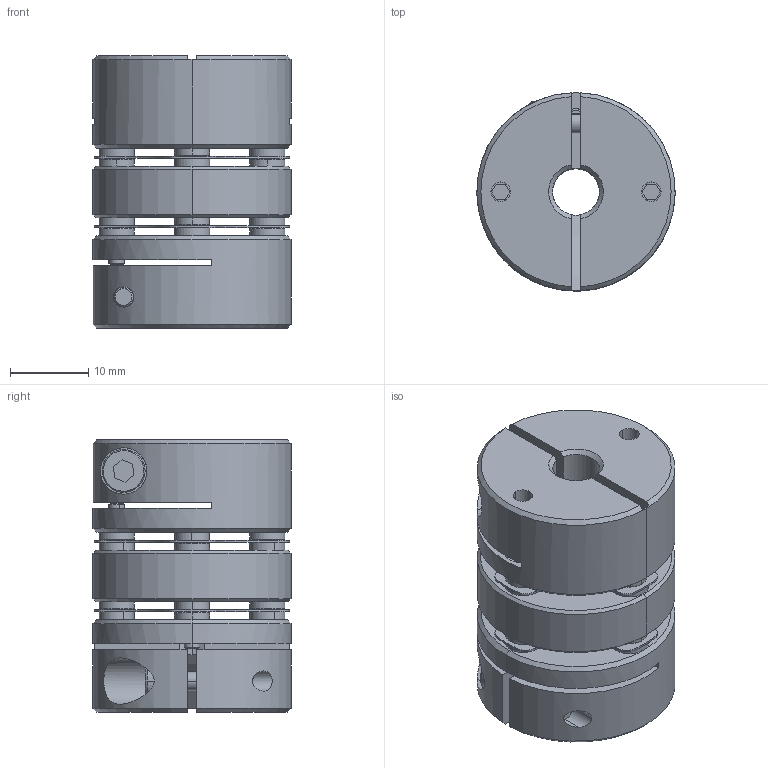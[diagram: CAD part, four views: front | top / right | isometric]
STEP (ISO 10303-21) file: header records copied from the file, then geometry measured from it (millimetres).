
FILE_DESCRIPTION (( 'STEP AP214' ), '1' );
FILE_NAME ('Ruland_MDCDE25-6-6-A.step', '2017-08-23T14:36:45', ( '' ), ( '' ), 'SwSTEP 2.0', 'SolidWorks 2017', '' );
FILE_SCHEMA (( 'AUTOMOTIVE_DESIGN' ));
Length unit declared in the file: inch
Products named in the file (6): SD16-25-SS; Metric Socket Head Cap Screws 1_CFM3_10; Metric Socket Head Cap Screws 1_CFM2.5_5; MDCH25-x-A_MDCH25-6-A; DD16-25-X; Ruland_MDCDE25-6-6-A
Assembly tree (15 placements, depth 2):
  Ruland_MDCDE25-6-6-A
    MDCH25-x-A_MDCH25-6-A  x2
    DD16-25-X
    SD16-25-SS  x2
    Metric Socket Head Cap Screws 1_CFM3_10  x2
    Metric Socket Head Cap Screws 1_CFM2.5_5  x8
Bounding box: 25.4 x 25.4 x 34.9 mm (x, y, z)
Volume: 12519.5 mm3; surface area: 10531.6 mm2
Topology: 15 solids, 15 shells, 420 faces, 992 edges, 630 vertices
Faces by surface type: cylinder 184, plane 144, cone 92
Entity records: 6150 total; most frequent: CARTESIAN_POINT 1084, DIRECTION 1048, ORIENTED_EDGE 872, EDGE_CURVE 436, AXIS2_PLACEMENT_3D 429, VERTEX_POINT 279, EDGE_LOOP 235, CIRCLE 228
